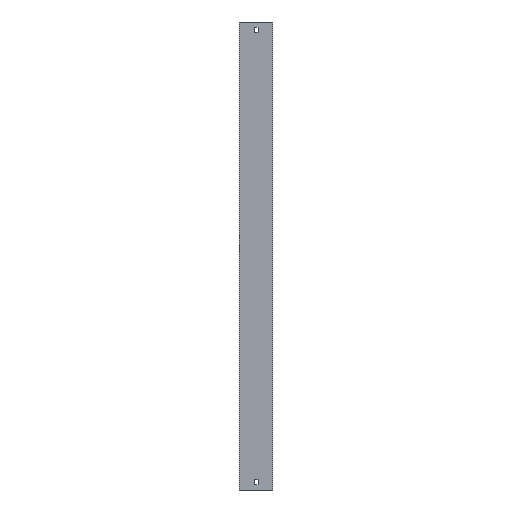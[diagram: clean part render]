
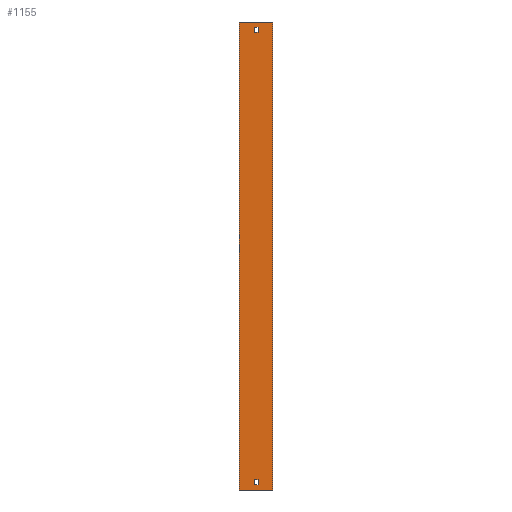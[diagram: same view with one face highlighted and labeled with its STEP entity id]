
A CAD part, left-side view. The second image highlights one B-rep face of the part: STEP entity #1155.
In plain terms, the highlighted planar face has unit normal (-1, 0, 0).
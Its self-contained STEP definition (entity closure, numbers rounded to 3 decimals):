
#3 = VECTOR ( 'NONE', #1600, 1000. ) ;
#6 = VECTOR ( 'NONE', #1257, 1000. ) ;
#18 = DIRECTION ( 'NONE',  ( 0., 0., 1. ) ) ;
#27 = CARTESIAN_POINT ( 'NONE',  ( -704., 28.5, 40. ) ) ;
#28 = LINE ( 'NONE', #1502, #1874 ) ;
#30 = FACE_BOUND ( 'NONE', #416, .T. ) ;
#48 = CARTESIAN_POINT ( 'NONE',  ( -704., 35.5, 40. ) ) ;
#52 = FACE_OUTER_BOUND ( 'NONE', #572, .T. ) ;
#83 = VERTEX_POINT ( 'NONE', #309 ) ;
#112 = LINE ( 'NONE', #1738, #277 ) ;
#118 = LINE ( 'NONE', #1355, #1085 ) ;
#158 = DIRECTION ( 'NONE',  ( 1., 0., 0. ) ) ;
#165 = LINE ( 'NONE', #1819, #1346 ) ;
#169 = EDGE_CURVE ( 'NONE', #999, #1075, #1748, .T. ) ;
#202 = VECTOR ( 'NONE', #1697, 1000. ) ;
#247 = LINE ( 'NONE', #1759, #1905 ) ;
#277 = VECTOR ( 'NONE', #888, 1000. ) ;
#298 = VECTOR ( 'NONE', #301, 1000. ) ;
#300 = VERTEX_POINT ( 'NONE', #975 ) ;
#301 = DIRECTION ( 'NONE',  ( 0., -1., 0. ) ) ;
#309 = CARTESIAN_POINT ( 'NONE',  ( -704., 35.5, 40. ) ) ;
#367 = CARTESIAN_POINT ( 'NONE',  ( -704., 65.5, -854. ) ) ;
#386 = VECTOR ( 'NONE', #832, 1000. ) ;
#392 = CARTESIAN_POINT ( 'NONE',  ( -704., 65.5, -854. ) ) ;
#407 = ORIENTED_EDGE ( 'NONE', *, *, #691, .F. ) ;
#410 = CARTESIAN_POINT ( 'NONE',  ( -704., 28.5, 40. ) ) ;
#416 = EDGE_LOOP ( 'NONE', ( #529, #1734, #1049, #846 ) ) ;
#420 = LINE ( 'NONE', #732, #1604 ) ;
#432 = VERTEX_POINT ( 'NONE', #783 ) ;
#434 = VERTEX_POINT ( 'NONE', #757 ) ;
#502 = CARTESIAN_POINT ( 'NONE',  ( -704., 28.5, -844. ) ) ;
#529 = ORIENTED_EDGE ( 'NONE', *, *, #613, .F. ) ;
#540 = EDGE_CURVE ( 'NONE', #300, #1198, #165, .T. ) ;
#563 = CARTESIAN_POINT ( 'NONE',  ( -704., 35.5, 30. ) ) ;
#571 = EDGE_CURVE ( 'NONE', #434, #1317, #1263, .T. ) ;
#572 = EDGE_LOOP ( 'NONE', ( #1301, #407, #1742, #1474 ) ) ;
#613 = EDGE_CURVE ( 'NONE', #1595, #1150, #28, .T. ) ;
#632 = AXIS2_PLACEMENT_3D ( 'NONE', #392, #158, #1548 ) ;
#644 = FACE_BOUND ( 'NONE', #967, .T. ) ;
#686 = LINE ( 'NONE', #367, #386 ) ;
#691 = EDGE_CURVE ( 'NONE', #432, #1317, #1240, .T. ) ;
#696 = DIRECTION ( 'NONE',  ( 0., -1., 0. ) ) ;
#721 = EDGE_CURVE ( 'NONE', #1198, #1595, #112, .T. ) ;
#732 = CARTESIAN_POINT ( 'NONE',  ( -704., 35.5, 40. ) ) ;
#757 = CARTESIAN_POINT ( 'NONE',  ( -704., 0., -854. ) ) ;
#783 = CARTESIAN_POINT ( 'NONE',  ( -704., 65.5, 50. ) ) ;
#790 = ORIENTED_EDGE ( 'NONE', *, *, #1336, .T. ) ;
#793 = CARTESIAN_POINT ( 'NONE',  ( -704., 65.5, -854. ) ) ;
#817 = VERTEX_POINT ( 'NONE', #563 ) ;
#832 = DIRECTION ( 'NONE',  ( 0., -1., 0. ) ) ;
#846 = ORIENTED_EDGE ( 'NONE', *, *, #1074, .F. ) ;
#851 = ORIENTED_EDGE ( 'NONE', *, *, #169, .T. ) ;
#876 = DIRECTION ( 'NONE',  ( 0., -1., 0. ) ) ;
#888 = DIRECTION ( 'NONE',  ( 0., 0., -1. ) ) ;
#914 = DIRECTION ( 'NONE',  ( 0., 1., 0. ) ) ;
#922 = EDGE_CURVE ( 'NONE', #817, #83, #1675, .T. ) ;
#967 = EDGE_LOOP ( 'NONE', ( #1736, #1457, #851, #790 ) ) ;
#975 = CARTESIAN_POINT ( 'NONE',  ( -704., 28.5, -834. ) ) ;
#999 = VERTEX_POINT ( 'NONE', #27 ) ;
#1049 = ORIENTED_EDGE ( 'NONE', *, *, #540, .F. ) ;
#1074 = EDGE_CURVE ( 'NONE', #1150, #300, #247, .T. ) ;
#1075 = VERTEX_POINT ( 'NONE', #1593 ) ;
#1083 = EDGE_CURVE ( 'NONE', #83, #999, #420, .T. ) ;
#1085 = VECTOR ( 'NONE', #914, 1000. ) ;
#1105 = CARTESIAN_POINT ( 'NONE',  ( -704., 65.5, 50. ) ) ;
#1150 = VERTEX_POINT ( 'NONE', #502 ) ;
#1155 = ADVANCED_FACE ( 'NONE', ( #52, #644, #30 ), #1836, .F. ) ;
#1193 = EDGE_CURVE ( 'NONE', #1277, #432, #1704, .T. ) ;
#1198 = VERTEX_POINT ( 'NONE', #1381 ) ;
#1240 = LINE ( 'NONE', #1105, #298 ) ;
#1257 = DIRECTION ( 'NONE',  ( 0., 0., 1. ) ) ;
#1263 = LINE ( 'NONE', #1842, #202 ) ;
#1277 = VERTEX_POINT ( 'NONE', #1663 ) ;
#1301 = ORIENTED_EDGE ( 'NONE', *, *, #571, .T. ) ;
#1317 = VERTEX_POINT ( 'NONE', #1747 ) ;
#1336 = EDGE_CURVE ( 'NONE', #1075, #817, #118, .T. ) ;
#1346 = VECTOR ( 'NONE', #1542, 1000. ) ;
#1355 = CARTESIAN_POINT ( 'NONE',  ( -704., 35.5, 30. ) ) ;
#1381 = CARTESIAN_POINT ( 'NONE',  ( -704., 35.5, -834. ) ) ;
#1382 = CARTESIAN_POINT ( 'NONE',  ( -704., 35.5, -844. ) ) ;
#1457 = ORIENTED_EDGE ( 'NONE', *, *, #1083, .T. ) ;
#1474 = ORIENTED_EDGE ( 'NONE', *, *, #1475, .T. ) ;
#1475 = EDGE_CURVE ( 'NONE', #1277, #434, #686, .T. ) ;
#1502 = CARTESIAN_POINT ( 'NONE',  ( -704., 35.5, -844. ) ) ;
#1542 = DIRECTION ( 'NONE',  ( 0., 1., 0. ) ) ;
#1548 = DIRECTION ( 'NONE',  ( 0., 0., -1. ) ) ;
#1593 = CARTESIAN_POINT ( 'NONE',  ( -704., 28.5, 30. ) ) ;
#1595 = VERTEX_POINT ( 'NONE', #1382 ) ;
#1600 = DIRECTION ( 'NONE',  ( 0., 0., -1. ) ) ;
#1601 = DIRECTION ( 'NONE',  ( 0., 0., 1. ) ) ;
#1604 = VECTOR ( 'NONE', #876, 1000. ) ;
#1663 = CARTESIAN_POINT ( 'NONE',  ( -704., 65.5, -854. ) ) ;
#1675 = LINE ( 'NONE', #48, #6 ) ;
#1697 = DIRECTION ( 'NONE',  ( 0., 0., 1. ) ) ;
#1704 = LINE ( 'NONE', #793, #1725 ) ;
#1725 = VECTOR ( 'NONE', #18, 1000. ) ;
#1734 = ORIENTED_EDGE ( 'NONE', *, *, #721, .F. ) ;
#1736 = ORIENTED_EDGE ( 'NONE', *, *, #922, .T. ) ;
#1738 = CARTESIAN_POINT ( 'NONE',  ( -704., 35.5, -844. ) ) ;
#1742 = ORIENTED_EDGE ( 'NONE', *, *, #1193, .F. ) ;
#1747 = CARTESIAN_POINT ( 'NONE',  ( -704., 0., 50. ) ) ;
#1748 = LINE ( 'NONE', #410, #3 ) ;
#1759 = CARTESIAN_POINT ( 'NONE',  ( -704., 28.5, -844. ) ) ;
#1819 = CARTESIAN_POINT ( 'NONE',  ( -704., 35.5, -834. ) ) ;
#1836 = PLANE ( 'NONE',  #632 ) ;
#1842 = CARTESIAN_POINT ( 'NONE',  ( -704., 0., -854. ) ) ;
#1874 = VECTOR ( 'NONE', #696, 1000. ) ;
#1905 = VECTOR ( 'NONE', #1601, 1000. ) ;
